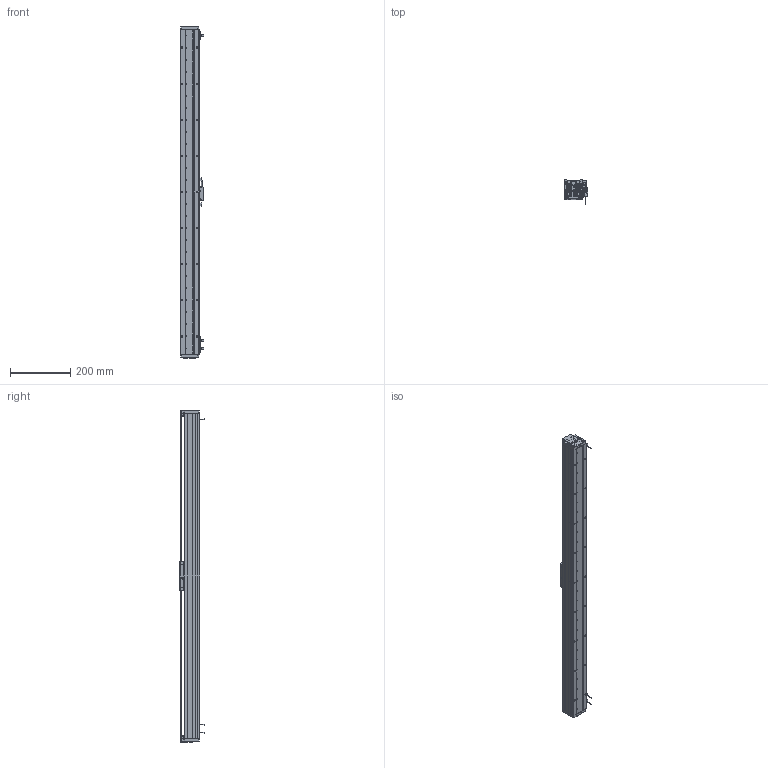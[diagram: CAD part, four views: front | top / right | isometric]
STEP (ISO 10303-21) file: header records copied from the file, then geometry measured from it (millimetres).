
FILE_DESCRIPTION (( 'STEP AP203' ), '1' );
FILE_NAME ('DA-A60-B1-T940-C010-0.2 眻盄萇儂.STEP', '2025-08-13T02:02:04', ( '' ), ( '' ), 'SwSTEP 2.0', 'SolidWorks 2019', '' );
FILE_SCHEMA (( 'CONFIG_CONTROL_DESIGN' ));
Length unit declared in the file: millimetre
Products named in the file (21): 葩璃 DMT-010 1米m 0.2M^DA-A60-B1-T-C010-0.2-N 眻盄萇儂; 复件 DA-A60-GYP-DMT-00 光电感应片^DA-A60-B1-T-C010-0.2-N 直线电机(默认); AU60-L 菁釱絳寢; 葩璃 PM-T45^DA-A60-B1-T-C010-0.2-N 眻盄萇儂; DA60-B1-HT-B-03 賑雄怢啣; DA60-T-002-00  裔啣; 复件 纯铜油杯 6x6mm^AU60-V 滚珠滑台; DA-A60-B1-T940-C010-0.2 眻盄萇儂; AU60-V 幗紩賑怢; 复件 DA60-B1-GT-00 滑块钢轨^DA60-YT-B1-HT-B-01 一体化滑动台板; 复件 DA60-DMT-DTJ-00 读数头支架^DA-A60-B1-T-C010-0.2-N 直线电机; 复件 DA60-GT-T-00 底座钢轨^AU60-L 底座导轨; 复件 DA60-DG-H-N-00 端盖^DA-A60-B1-T-C010-0.2-N 直线电机; 葩璃 DA60-HK-DP-01 結え^AU60-V 幗紩賑怢; 复件 XD-U-02  磁栅尺^DA-A60-B1-T-C010-0.2-N 直线电机; IU-AU60-L-00 菁釱(1080); 复件 六角薄螺母 M3^DA-A60-B1-T-C010-0.2-N 直线电机(GB_FASTENER_NUT_STNAB M3-C); 葩璃 AKM01-W030-TRL^DA-A60-B1-T-C010-0.2-N 眻盄萇儂; 复件 DA60-XJ-00 橡胶挡块^DA-A60-B1-T-C010-0.2-N 直线电机; 复件 BAKM01-W030-C1-TP-0.2 直线电机动子^DA-A60-B1-T-C010-0.2-N 直线电机; DA60-YT-B1-HT-B-01 珨极趙賑雄怢啣
Assembly tree (33 placements, depth 4):
  DA-A60-B1-T940-C010-0.2 眻盄萇儂
    AU60-L 菁釱絳寢
      IU-AU60-L-00 菁釱(1080)
      复件 DA60-GT-T-00 底座钢轨^AU60-L 底座导轨  x2
    AU60-V 幗紩賑怢
      DA60-YT-B1-HT-B-01 珨极趙賑雄怢啣
        DA60-B1-HT-B-03 賑雄怢啣
        复件 DA60-B1-GT-00 滑块钢轨^DA60-YT-B1-HT-B-01 一体化滑动台板  x2
      葩璃 DA60-HK-DP-01 結え^AU60-V 幗紩賑怢  x2
      复件 纯铜油杯 6x6mm^AU60-V 滚珠滑台
    复件 DA-A60-GYP-DMT-00 光电感应片^DA-A60-B1-T-C010-0.2-N 直线电机(默认)  x2
    复件 DA60-DMT-DTJ-00 读数头支架^DA-A60-B1-T-C010-0.2-N 直线电机
    葩璃 DMT-010 1米m 0.2M^DA-A60-B1-T-C010-0.2-N 眻盄萇儂
    复件 BAKM01-W030-C1-TP-0.2 直线电机动子^DA-A60-B1-T-C010-0.2-N 直线电机
    复件 DA60-XJ-00 橡胶挡块^DA-A60-B1-T-C010-0.2-N 直线电机  x2
    复件 DA60-DG-H-N-00 端盖^DA-A60-B1-T-C010-0.2-N 直线电机  x2
    DA60-T-002-00  裔啣
    葩璃 AKM01-W030-TRL^DA-A60-B1-T-C010-0.2-N 眻盄萇儂
    葩璃 PM-T45^DA-A60-B1-T-C010-0.2-N 眻盄萇儂  x3
    复件 XD-U-02  磁栅尺^DA-A60-B1-T-C010-0.2-N 直线电机
    复件 六角薄螺母 M3^DA-A60-B1-T-C010-0.2-N 直线电机(GB_FASTENER_NUT_STNAB M3-C)  x6
Bounding box: 76.95 x 80 x 1104 mm (x, y, z)
Volume: 2227030.4 mm3; surface area: 794621.4 mm2
Topology: 35 solids, 37 shells, 3104 faces, 8108 edges, 4947 vertices
Faces by surface type: cylinder 1229, plane 1041, bspline 577, cone 248, torus 8, sphere 1
Entity records: 80667 total; most frequent: CARTESIAN_POINT 25637, ORIENTED_EDGE 11472, DIRECTION 10403, EDGE_CURVE 5736, AXIS2_PLACEMENT_3D 3735, VERTEX_POINT 3618, LINE 2933, VECTOR 2933
